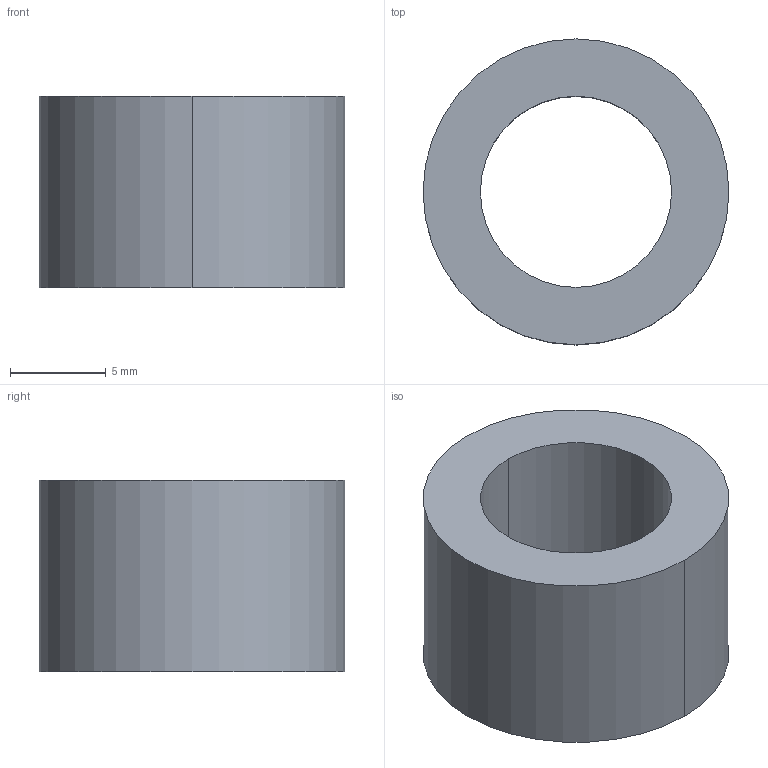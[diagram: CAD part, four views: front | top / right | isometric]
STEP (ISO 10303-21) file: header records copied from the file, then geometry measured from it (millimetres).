
FILE_DESCRIPTION(/* description */ (''),/* implementation_level */ '2;1');
FILE_NAME(/* name */ '3d_tgbz10-10_00326_r00.stp',/* time_stamp */ '2011-01-10T14:09:03+09:00',/* author */ ('MISUMI'),/* organization */ (''),/* preprocessor_version */ 'ST-DEVELOPER v11',/* originating_system */ 'UGS - NX 5.0',/* authorisation */ '');
FILE_SCHEMA (('CONFIG_CONTROL_DESIGN'));
Length unit declared in the file: millimetre
Products named in the file (1): 3d_tgbz10-10_00326_r00
Bounding box: 16 x 16 x 10 mm (x, y, z)
Volume: 1225.2 mm3; surface area: 1061.9 mm2
Topology: 1 solids, 1 shells, 6 faces, 12 edges, 8 vertices
Faces by surface type: cylinder 4, plane 2
Entity records: 254 total; most frequent: DIRECTION 34, CARTESIAN_POINT 27, ORIENTED_EDGE 24, AXIS2_PLACEMENT_3D 15, EDGE_CURVE 12, EDGE_LOOP 8, CIRCLE 8, VERTEX_POINT 8
